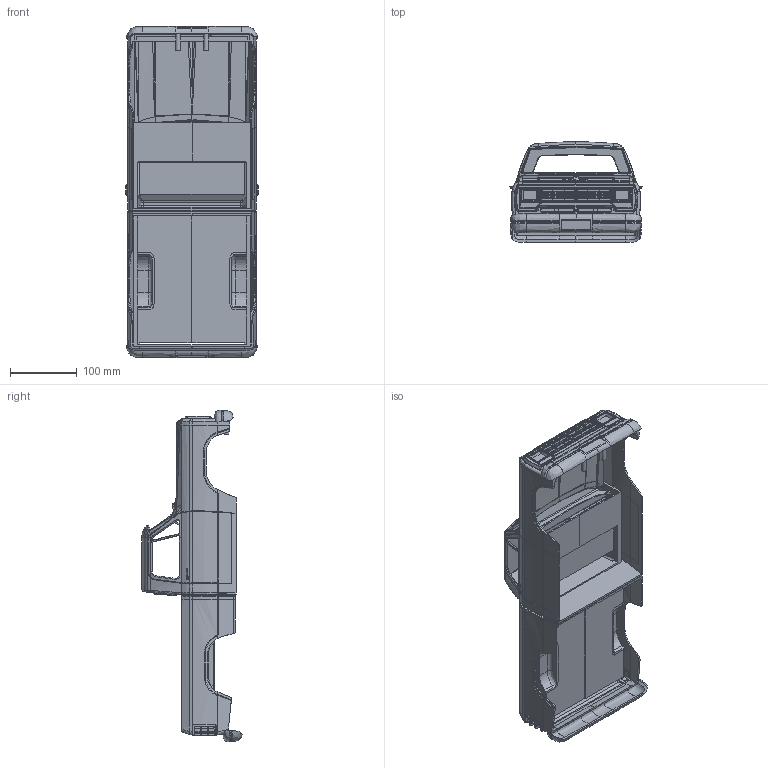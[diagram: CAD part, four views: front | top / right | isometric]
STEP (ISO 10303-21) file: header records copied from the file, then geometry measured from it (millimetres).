
FILE_DESCRIPTION(/* description */ (''),/* implementation_level */ '2;1');
FILE_NAME(/* name */ '/Users/alexmichaelbogusky/Desktop/Dodge Ram CUT UP v14.step',/* time_stamp */ '2019-03-31T21:15:35-06:00',/* author */ ('alex@bogusky.me'),/* organization */ (''),/* preprocessor_version */ 'ST-DEVELOPER v17.2',/* originating_system */ 'Autodesk Translation Framework v7.6.0.251',/* authorisation */ '');
FILE_SCHEMA (('AUTOMOTIVE_DESIGN { 1 0 10303 214 3 1 1 }'));
Products named in the file (1): Dodge Ram CUT UP
Bounding box: 197.11 x 149.44 x 494.75 mm (x, y, z)
Volume: 810961 mm3; surface area: 679032.6 mm2
Topology: 23 solids, 23 shells, 5043 faces, 12764 edges, 7894 vertices
Faces by surface type: bspline 1919, plane 1696, cylinder 1081, sphere 190, torus 146, cone 11
Full cylindrical faces by diameter (mm): 1.843 x2, 2.45 x1, 2.469 x2, 2.555 x2, 2.9 x1, 2.951 x1, 3.433 x1, 3.5 x1, 6.8 x2, 7 x1, 11.615 x3
Entity records: 250073 total; most frequent: CARTESIAN_POINT 142329, ORIENTED_EDGE 25418, DIRECTION 17206, EDGE_CURVE 12709, VERTEX_POINT 7894, AXIS2_PLACEMENT_3D 5975, EDGE_LOOP 5292, LINE 5256
